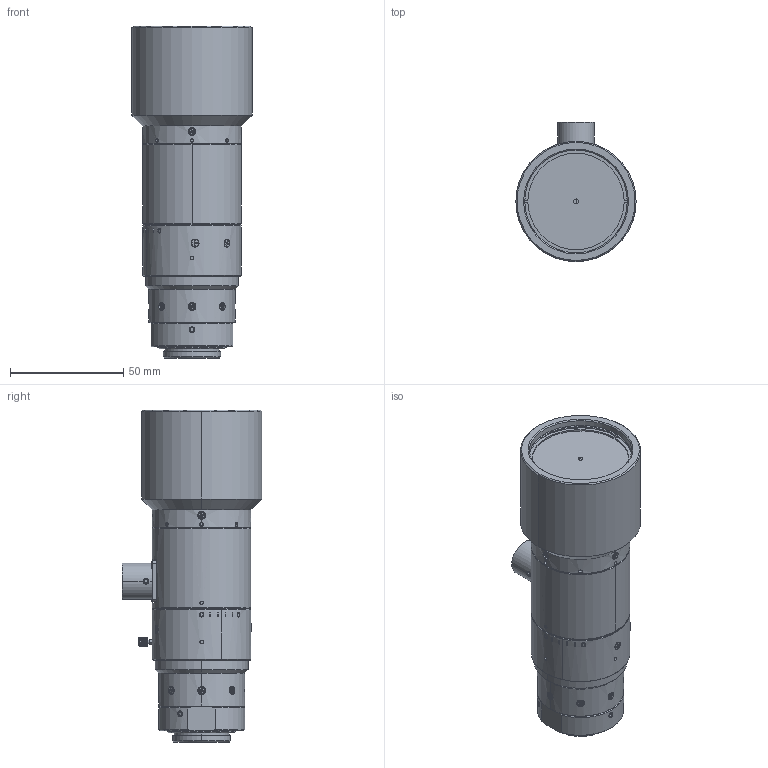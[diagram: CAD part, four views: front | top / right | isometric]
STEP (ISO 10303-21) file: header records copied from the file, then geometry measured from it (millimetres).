
FILE_DESCRIPTION (( 'STEP AP203' ), '1' );
FILE_NAME ('3d_mml075-sr110dvi-18c_a001.STEP', '2019-09-10T00:42:09', ( '' ), ( '' ), 'SwSTEP 2.0', 'SolidWorks 2017', '' );
FILE_SCHEMA (( 'CONFIG_CONTROL_DESIGN' ));
Length unit declared in the file: millimetre
Products named in the file (1): 3d_mml075-sr110dvi-18c_a001
Bounding box: 53 x 61.5 x 146.39 mm (x, y, z)
Volume: 213900 mm3; surface area: 30941.1 mm2
Topology: 1 solids, 1 shells, 1226 faces, 3074 edges, 1908 vertices
Faces by surface type: plane 541, cone 330, cylinder 239, bspline 56, torus 30, sphere 30
Entity records: 45779 total; most frequent: CARTESIAN_POINT 17834, ORIENTED_EDGE 6084, DIRECTION 5529, EDGE_CURVE 3042, AXIS2_PLACEMENT_3D 2273, VERTEX_POINT 1908, EDGE_LOOP 1318, ADVANCED_FACE 1226
